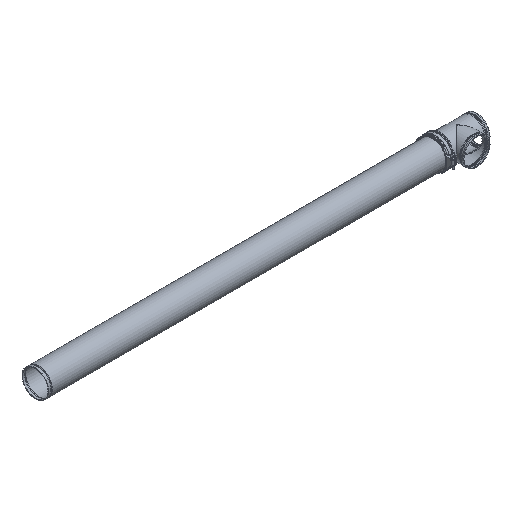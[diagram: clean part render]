
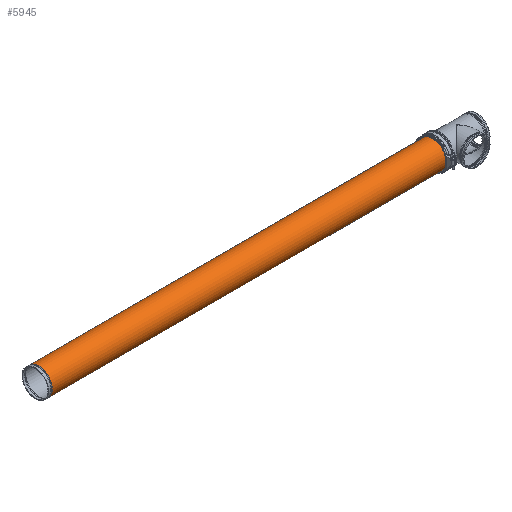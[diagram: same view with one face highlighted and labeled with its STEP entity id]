
A CAD part, isometric view. The second image highlights one B-rep face of the part: STEP entity #5945.
In plain terms, the highlighted cylindrical face has radius 203.2 mm (diameter 406.4 mm), a full revolution.
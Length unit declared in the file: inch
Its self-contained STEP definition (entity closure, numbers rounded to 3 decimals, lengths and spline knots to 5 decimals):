
#310=LINE('',#8890,#626);
#626=VECTOR('',#7138,8.);
#941=CYLINDRICAL_SURFACE('',#6375,8.);
#1101=FACE_OUTER_BOUND('',#1411,.T.);
#1411=EDGE_LOOP('',(#3729,#3730,#3731,#3732,#3733,#3734));
#1755=CIRCLE('',#6373,8.);
#1756=CIRCLE('',#6374,8.);
#1757=CIRCLE('',#6376,8.);
#1758=CIRCLE('',#6377,8.);
#2152=VERTEX_POINT('',#8880);
#2153=VERTEX_POINT('',#8881);
#2154=VERTEX_POINT('',#8886);
#2155=VERTEX_POINT('',#8887);
#2789=EDGE_CURVE('',#2152,#2153,#1755,.T.);
#2790=EDGE_CURVE('',#2153,#2152,#1756,.T.);
#2792=EDGE_CURVE('',#2154,#2155,#1757,.T.);
#2793=EDGE_CURVE('',#2155,#2154,#1758,.T.);
#2794=EDGE_CURVE('',#2155,#2153,#310,.T.);
#3729=ORIENTED_EDGE('',*,*,#2792,.F.);
#3730=ORIENTED_EDGE('',*,*,#2793,.F.);
#3731=ORIENTED_EDGE('',*,*,#2794,.T.);
#3732=ORIENTED_EDGE('',*,*,#2790,.T.);
#3733=ORIENTED_EDGE('',*,*,#2789,.T.);
#3734=ORIENTED_EDGE('',*,*,#2794,.F.);
#5945=ADVANCED_FACE('',(#1101),#941,.T.);
#6373=AXIS2_PLACEMENT_3D('',#8882,#7127,#7128);
#6374=AXIS2_PLACEMENT_3D('',#8883,#7129,#7130);
#6375=AXIS2_PLACEMENT_3D('',#8885,#7132,#7133);
#6376=AXIS2_PLACEMENT_3D('',#8888,#7134,#7135);
#6377=AXIS2_PLACEMENT_3D('',#8889,#7136,#7137);
#7127=DIRECTION('center_axis',(1.,0.,0.));
#7128=DIRECTION('ref_axis',(0.,1.,0.));
#7129=DIRECTION('center_axis',(1.,0.,0.));
#7130=DIRECTION('ref_axis',(0.,1.,0.));
#7132=DIRECTION('center_axis',(1.,0.,0.));
#7133=DIRECTION('ref_axis',(0.,1.,0.));
#7134=DIRECTION('center_axis',(1.,0.,0.));
#7135=DIRECTION('ref_axis',(0.,1.,0.));
#7136=DIRECTION('center_axis',(1.,0.,0.));
#7137=DIRECTION('ref_axis',(0.,1.,0.));
#7138=DIRECTION('',(-1.,0.,0.));
#8880=CARTESIAN_POINT('',(-117.88023,8.,0.));
#8881=CARTESIAN_POINT('',(-117.88023,-8.,0.));
#8882=CARTESIAN_POINT('Origin',(-117.88023,0.,
0.));
#8883=CARTESIAN_POINT('Origin',(-117.88023,0.,
0.));
#8885=CARTESIAN_POINT('Origin',(0.,0.,
0.));
#8886=CARTESIAN_POINT('',(117.88023,8.,0.));
#8887=CARTESIAN_POINT('',(117.88023,-8.,0.));
#8888=CARTESIAN_POINT('Origin',(117.88023,0.,0.));
#8889=CARTESIAN_POINT('Origin',(117.88023,0.,0.));
#8890=CARTESIAN_POINT('',(0.,-8.,0.));
